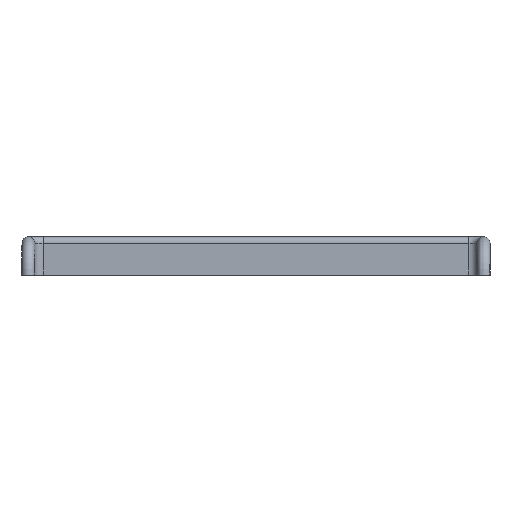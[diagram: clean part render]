
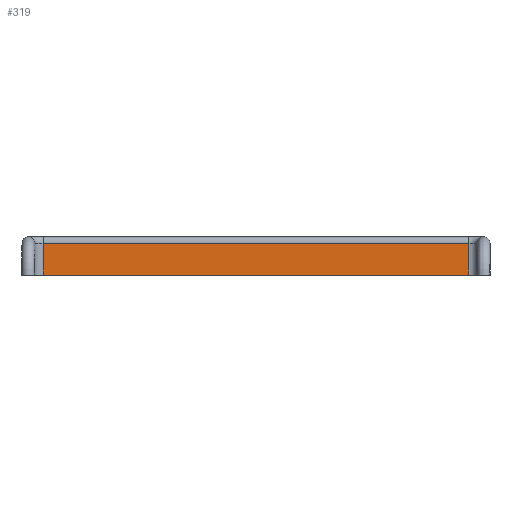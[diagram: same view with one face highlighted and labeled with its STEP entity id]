
A CAD part, left-side view. The second image highlights one B-rep face of the part: STEP entity #319.
In plain terms, the highlighted planar face has unit normal (-1, 0, 0).
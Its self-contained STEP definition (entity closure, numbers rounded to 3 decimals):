
#26=LINE('',#532,#49);
#27=LINE('',#535,#50);
#28=LINE('',#537,#51);
#29=LINE('',#538,#52);
#49=VECTOR('',#423,10.);
#50=VECTOR('',#428,10.);
#51=VECTOR('',#429,10.);
#52=VECTOR('',#430,10.);
#70=PLANE('',#363);
#82=FACE_OUTER_BOUND('',#102,.T.);
#102=EDGE_LOOP('',(#233,#234,#235,#236));
#141=VERTEX_POINT('',#505);
#148=VERTEX_POINT('',#519);
#152=VERTEX_POINT('',#531);
#153=VERTEX_POINT('',#536);
#182=EDGE_CURVE('',#148,#152,#26,.T.);
#184=EDGE_CURVE('',#141,#148,#27,.T.);
#185=EDGE_CURVE('',#153,#141,#28,.T.);
#186=EDGE_CURVE('',#152,#153,#29,.T.);
#233=ORIENTED_EDGE('',*,*,#184,.F.);
#234=ORIENTED_EDGE('',*,*,#185,.F.);
#235=ORIENTED_EDGE('',*,*,#186,.F.);
#236=ORIENTED_EDGE('',*,*,#182,.F.);
#319=ADVANCED_FACE('',(#82),#70,.T.);
#363=AXIS2_PLACEMENT_3D('',#534,#426,#427);
#423=DIRECTION('',(0.,0.,-1.));
#426=DIRECTION('center_axis',(-1.,0.,0.));
#427=DIRECTION('ref_axis',(0.,1.,0.));
#428=DIRECTION('',(0.,-1.,0.));
#429=DIRECTION('',(0.,0.,1.));
#430=DIRECTION('',(0.,1.,0.));
#505=CARTESIAN_POINT('',(88.499,107.824,212.494));
#519=CARTESIAN_POINT('',(88.499,7.824,212.494));
#531=CARTESIAN_POINT('',(88.499,7.824,204.994));
#532=CARTESIAN_POINT('',(88.499,7.824,213.994));
#534=CARTESIAN_POINT('Origin',(88.499,5.824,213.994));
#535=CARTESIAN_POINT('',(88.499,31.824,212.494));
#536=CARTESIAN_POINT('',(88.499,107.824,204.994));
#537=CARTESIAN_POINT('',(88.499,107.824,213.994));
#538=CARTESIAN_POINT('',(88.499,2.824,204.994));
